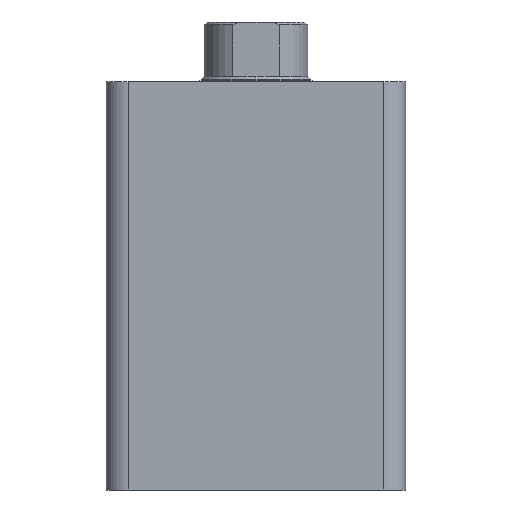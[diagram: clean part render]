
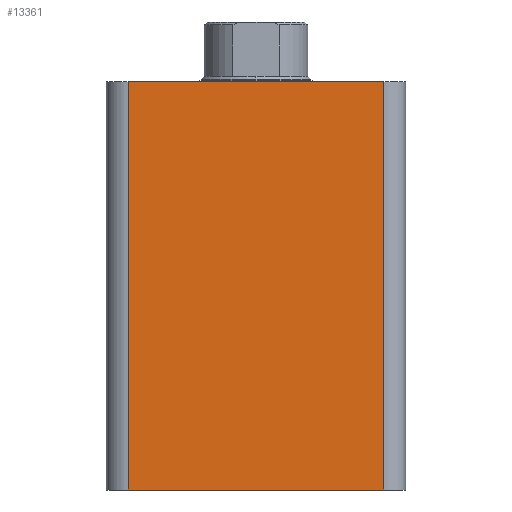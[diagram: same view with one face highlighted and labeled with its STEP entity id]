
A CAD part, front view. The second image highlights one B-rep face of the part: STEP entity #13361.
In plain terms, the highlighted planar face has unit normal (0, -1, 0).
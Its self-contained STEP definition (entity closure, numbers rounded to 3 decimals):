
#116 = LINE ( 'NONE', #5122, #8170 ) ;
#706 = CARTESIAN_POINT ( 'NONE',  ( 0., 0., 75. ) ) ;
#1138 = CARTESIAN_POINT ( 'NONE',  ( 51., 0., 75. ) ) ;
#1850 = ORIENTED_EDGE ( 'NONE', *, *, #7053, .T. ) ;
#2053 = DIRECTION ( 'NONE',  ( 0., 0., -1. ) ) ;
#2238 = VERTEX_POINT ( 'NONE', #3137 ) ;
#2520 = CARTESIAN_POINT ( 'NONE',  ( 4., 0., 0. ) ) ;
#2684 = DIRECTION ( 'NONE',  ( 1., 0., 0. ) ) ;
#3137 = CARTESIAN_POINT ( 'NONE',  ( 51., 0., 0. ) ) ;
#3193 = EDGE_CURVE ( 'NONE', #8865, #2238, #11341, .T. ) ;
#3354 = VERTEX_POINT ( 'NONE', #11859 ) ;
#3385 = ORIENTED_EDGE ( 'NONE', *, *, #7603, .F. ) ;
#4272 = VERTEX_POINT ( 'NONE', #8538 ) ;
#5122 = CARTESIAN_POINT ( 'NONE',  ( 4., 0., 75. ) ) ;
#5585 = FACE_OUTER_BOUND ( 'NONE', #6545, .T. ) ;
#6093 = ORIENTED_EDGE ( 'NONE', *, *, #6982, .T. ) ;
#6545 = EDGE_LOOP ( 'NONE', ( #10243, #1850, #3385, #6093 ) ) ;
#6982 = EDGE_CURVE ( 'NONE', #3354, #8865, #116, .T. ) ;
#7053 = EDGE_CURVE ( 'NONE', #2238, #4272, #13077, .T. ) ;
#7312 = DIRECTION ( 'NONE',  ( 0., 0., 1. ) ) ;
#7499 = VECTOR ( 'NONE', #11683, 1000. ) ;
#7603 = EDGE_CURVE ( 'NONE', #3354, #4272, #7976, .T. ) ;
#7976 = LINE ( 'NONE', #706, #10457 ) ;
#8170 = VECTOR ( 'NONE', #2053, 1000. ) ;
#8222 = VECTOR ( 'NONE', #2684, 1000. ) ;
#8509 = DIRECTION ( 'NONE',  ( 0., 1., 0. ) ) ;
#8538 = CARTESIAN_POINT ( 'NONE',  ( 51., 0., 75. ) ) ;
#8865 = VERTEX_POINT ( 'NONE', #2520 ) ;
#9042 = CARTESIAN_POINT ( 'NONE',  ( 0., 0., 0. ) ) ;
#10243 = ORIENTED_EDGE ( 'NONE', *, *, #3193, .T. ) ;
#10248 = DIRECTION ( 'NONE',  ( 1., 0., 0. ) ) ;
#10457 = VECTOR ( 'NONE', #10248, 1000. ) ;
#11341 = LINE ( 'NONE', #9042, #8222 ) ;
#11683 = DIRECTION ( 'NONE',  ( 0., 0., 1. ) ) ;
#11859 = CARTESIAN_POINT ( 'NONE',  ( 4., 0., 75. ) ) ;
#13066 = AXIS2_PLACEMENT_3D ( 'NONE', #13582, #8509, #7312 ) ;
#13077 = LINE ( 'NONE', #1138, #7499 ) ;
#13318 = PLANE ( 'NONE',  #13066 ) ;
#13361 = ADVANCED_FACE ( 'NONE', ( #5585 ), #13318, .F. ) ;
#13582 = CARTESIAN_POINT ( 'NONE',  ( 0., 0., 75. ) ) ;
